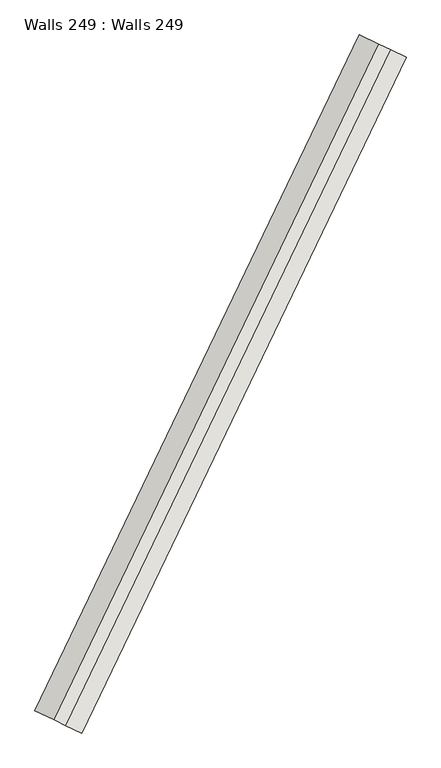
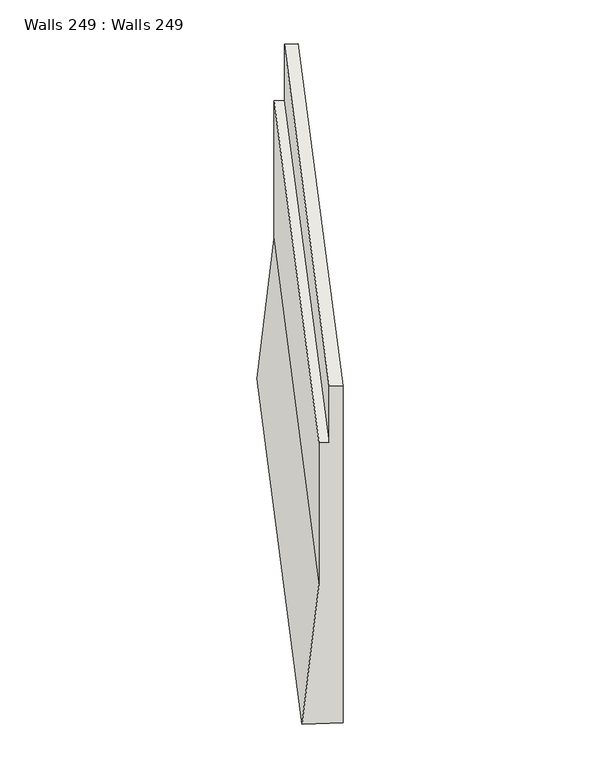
"""IFC4 building model written with IfcOpenShell, lengths in millimetres: wall geometry, Walls 249 : Walls 249."""

from ifc_helpers import new_model, si_unit, origin, place, context, project, spatial, faceted_brep, source, transform, mapped, element, save


def walls_249_walls_249_bc9394c1(model_context):
    return source(origin(), model_context, "Body", "Brep", [
        faceted_brep([(426363.7360119, 368212.1552884, 652940.0), (426183.4544054, 368298.7494127, 652940.0), (426183.4544054, 368298.7494127, 651940.0), (426048.2432005, 368363.6950059, 651940.0), (426048.2432005, 368363.6950059, 649410.0), (425822.8911924, 368471.9376613, 646910.0), (426363.7360119, 368212.1552884, 646910.0), (430130.5804187, 376054.4051726, 652990.0), (430130.5804187, 376054.4051726, 647020.0), (429589.7355992, 376314.1875455, 647020.0), (429815.0876074, 376205.9448901, 649520.0), (429815.0876074, 376205.9448901, 651990.0), (429950.2988122, 376140.9992969, 651990.0), (429950.2988122, 376140.9992969, 652990.0)], [[[0, 1, 2, 3, 4, 5, 6]], [[7, 8, 9, 10, 11, 12, 13]], [[7, 13, 1, 0]], [[13, 12, 2, 1]], [[12, 11, 3, 2]], [[11, 10, 4, 3]], [[10, 9, 5, 4]], [[9, 8, 6, 5]], [[8, 7, 0, 6]]]),
    ])


if __name__ == "__main__":
    model = new_model("IFC4")
    model_context = context("Model", 3, world=origin())
    ifc_project = project(units=[si_unit("LENGTHUNIT", "METRE", prefix="MILLI")], contexts=[model_context])
    site = spatial("IfcSite", under=ifc_project)
    building = spatial("IfcBuilding", under=site)
    placement = place(None, origin())
    walls_249_walls_249_shape = walls_249_walls_249_bc9394c1(model_context)
    element("IfcWall", 1, ObjectType="Walls 249 : Walls 249", at=placement, inside=building, context=model_context, shape_type="MappedRepresentation", body=[
        mapped(walls_249_walls_249_shape, transform((0.0, 0.0, 0.0), x_axis=(1.0, 0.0, 0.0), y_axis=(0.0, 1.0, 0.0), z_axis=(0.0, 0.0, 1.0))),
    ])
    save(model, "model.ifc")
